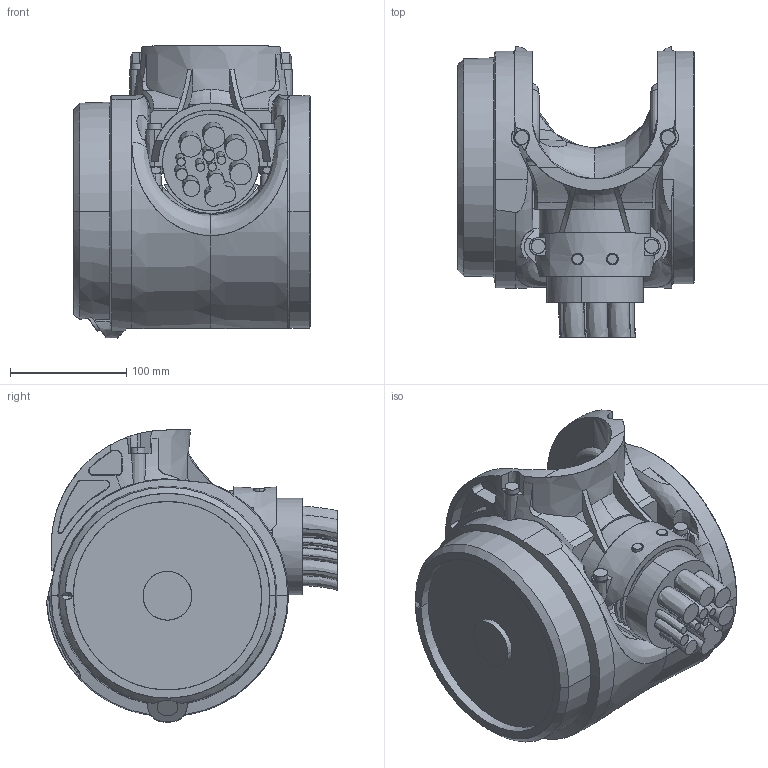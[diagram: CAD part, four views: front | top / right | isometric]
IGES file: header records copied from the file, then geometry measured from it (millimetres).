
Start section: SolidWorks IGES file using analytic representation for surfaces
Global section: file name: C:\Data\SAP_DOC\IRB6740_lightweight\6750S\IRB 6750S ASM\IRB6750S-LID-SW_270kg-320_OC_02_SW_J\IRB6750S-LID-SW_270kg-320_OC_02_IGES_J\IRB6750S-LID_270kg-320_OC_02_LINK06_CABLE.igs; native system: SolidWorks 2024; preprocessor: SolidWorks 2024; author: SEJAOLS6; date: 260507.084034; units: millimetre
Bounding box: 203.5 x 249.95 x 251.06 mm (x, y, z)
Surface area: 375640 mm2 (no closed solid volume)
Topology: 0 solids, 0 shells, 610 faces, 10118 edges, 10082 vertices
Faces by surface type: revolution 342, bspline 268
